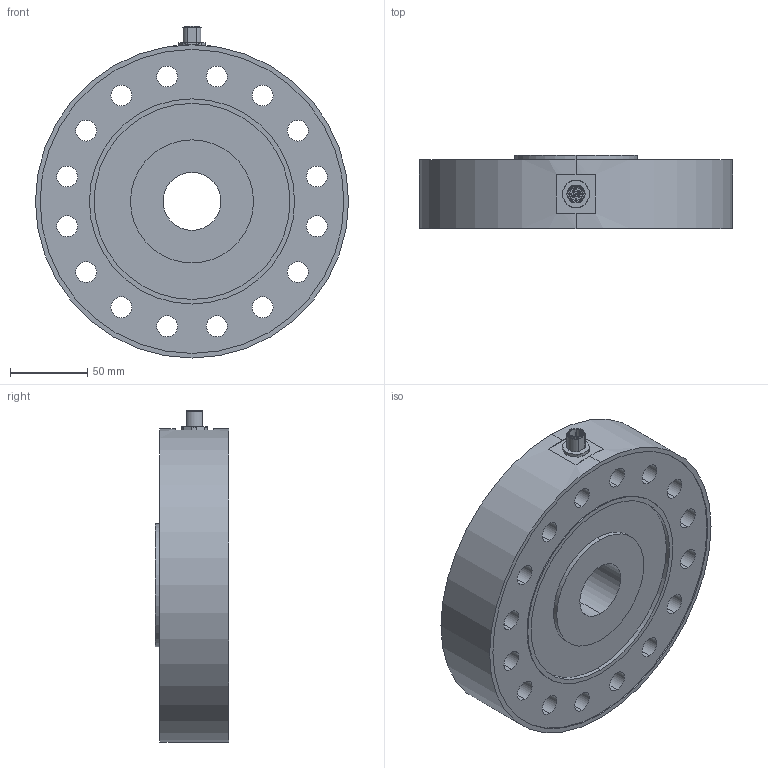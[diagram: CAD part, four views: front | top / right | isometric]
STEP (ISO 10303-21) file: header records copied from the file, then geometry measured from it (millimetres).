
FILE_DESCRIPTION (( 'STEP AP214' ), '1' );
FILE_NAME ('KFP3-200kN.STEP', '2022-11-11T11:34:43', ( '' ), ( '' ), 'SwSTEP 2.0', 'SolidWorks 2019', '' );
FILE_SCHEMA (( 'AUTOMOTIVE_DESIGN' ));
Length unit declared in the file: millimetre
Products named in the file (8): 86_0131_0002_00004_02; KFP3-200kN; M12 Flanschstecker; KFP3-200kN Grundkörper; 86_0131_0002_00004_01
Assembly tree (4 placements, depth 3):
  86_0131_0002_00004_02
  KFP3-200kN
    KFP3-200kN Grundkörper
    M12 Flanschstecker
      86_0131_0002_00004_01
      86_0131_0002_00004_02
  KFP3-200kN Grundkörper
  86_0131_0002_00004_01
Bounding box: 203 x 47.6 x 215.2 mm (x, y, z)
Volume: 1249414.7 mm3; surface area: 129343 mm2
Topology: 3 solids, 10 shells, 307 faces, 784 edges, 492 vertices
Faces by surface type: cylinder 135, plane 84, cone 56, bspline 16, sphere 8, torus 8
Entity records: 11078 total; most frequent: CARTESIAN_POINT 3530, ORIENTED_EDGE 1520, DIRECTION 1513, EDGE_CURVE 760, AXIS2_PLACEMENT_3D 589, VERTEX_POINT 484, EDGE_LOOP 370, VECTOR 335
